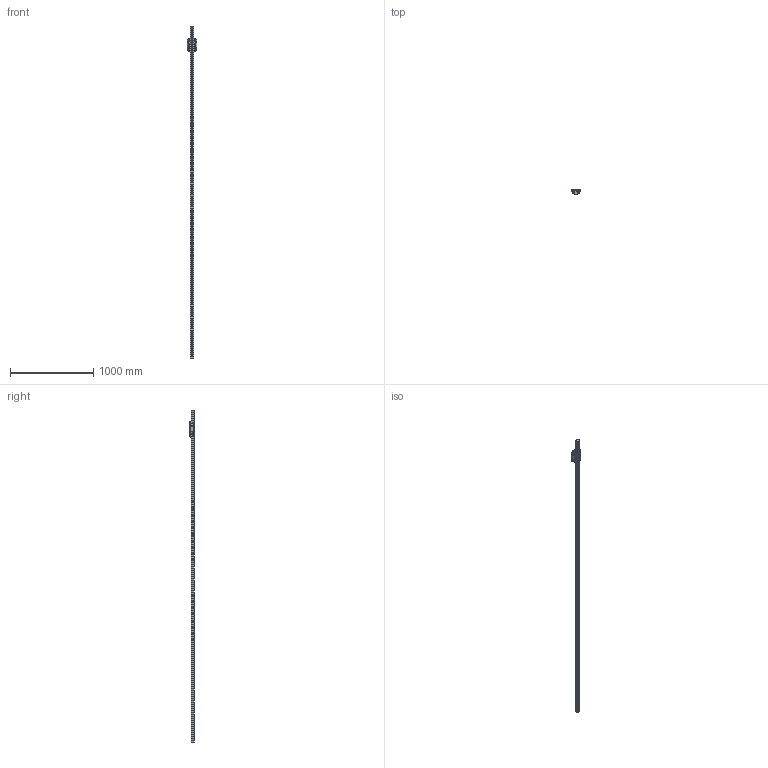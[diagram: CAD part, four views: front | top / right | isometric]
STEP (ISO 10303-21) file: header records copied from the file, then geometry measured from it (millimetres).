
FILE_DESCRIPTION((''),'2;1');
FILE_NAME('BRS45-LA_CUSTOMER_ASM_ASM','2020-11-24T11:48:05',('TWVS2025'),(''),'CREO PARAMETRIC BY PTC INC, 2018420','CREO PARAMETRIC BY PTC INC, 2018420','');
FILE_SCHEMA(('CONFIG_CONTROL_DESIGN'));
Products named in the file (75): BC-BRD45-LA_ASM_1_1; BC-BRD45-LA_ASM_1_2; BC-BRD45-LA_ASM_1_3; BC-BRD45-LA_ASM_1_4; BC-BRD45-LA_ASM_1_5; BC-BRD45-LA_ASM_1_6; BC-BRD45-LA_ASM_1_7; BC-BRD45-LA_ASM_1_8; BC-BRD45-LA_ASM_1_9; BC-BRD45-LA_ASM_1_10; BC-BRD45-LA_ASM_1_11; BC-BRD45-LA_ASM_1_12; BC-BRD45-LA_ASM_1_13; BC-BRD45-LA_ASM_1_14; BC-BRD45-LA_ASM_1_15; BC-BRD45-LA_ASM_1_16; BC-BRD45-LA_ASM_1_17; BC-BRD45-LA_ASM_1_18; BC-BRD45-LA_ASM_1_19; BC-BRD45-LA_ASM_1_20; BC-BRD45-LA_ASM_1_21; BC-BRD45-LA_ASM_1_22; BC-BRD45-LA_ASM_1_23; BC-BRD45-LA_ASM_1_24; BC-BRD45-LA_ASM_1_25; BC-BRD45-LA_ASM_1_26; BC-BRD45-LA_ASM_1_27; BC-BRD45-LA_ASM_1_28; BC-BRD45-LA_ASM_1_29; BC-BRD45-LA_ASM_1_30; BC-BRD45-LA_ASM_1_31; BC-BRD45-LA_ASM_1_32; BC-BRD45-LA_ASM_1_33; BC-BRD45-LA_ASM_1_34; BC-BRD45-LA_ASM_1_35; BC-BRD45-LA_ASM_1_36; BC-BRD45-LA_ASM_1_37; BC-BRD45-LA_ASM_1_38; BC-BRD45-LA_ASM_1_39; BC-BRD45-LA_ASM_1_40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
Assembly tree (74 placements, depth 4):
  BRS45-LA_CUSTOMER_ASM_ASM
    BRS45-LA_CUSTOMER_ASM_1_ASM
      BC-BRD45-LA_ASM_1_ASM
        BC-BRD45-LA_ASM_1_1
        BC-BRD45-LA_ASM_1_2
        BC-BRD45-LA_ASM_1_3
        BC-BRD45-LA_ASM_1_4
        BC-BRD45-LA_ASM_1_5
        BC-BRD45-LA_ASM_1_6
        BC-BRD45-LA_ASM_1_7
        BC-BRD45-LA_ASM_1_8
        BC-BRD45-LA_ASM_1_9
        BC-BRD45-LA_ASM_1_10
        BC-BRD45-LA_ASM_1_11
        BC-BRD45-LA_ASM_1_12
        BC-BRD45-LA_ASM_1_13
        BC-BRD45-LA_ASM_1_14
        BC-BRD45-LA_ASM_1_15
        BC-BRD45-LA_ASM_1_16
        BC-BRD45-LA_ASM_1_17
        BC-BRD45-LA_ASM_1_18
        BC-BRD45-LA_ASM_1_19
        BC-BRD45-LA_ASM_1_20
        BC-BRD45-LA_ASM_1_21
        BC-BRD45-LA_ASM_1_22
        BC-BRD45-LA_ASM_1_23
        BC-BRD45-LA_ASM_1_24
        BC-BRD45-LA_ASM_1_25
        BC-BRD45-LA_ASM_1_26
        BC-BRD45-LA_ASM_1_27
        BC-BRD45-LA_ASM_1_28
        BC-BRD45-LA_ASM_1_29
        BC-BRD45-LA_ASM_1_30
        BC-BRD45-LA_ASM_1_31
        BC-BRD45-LA_ASM_1_32
        BC-BRD45-LA_ASM_1_33
        BC-BRD45-LA_ASM_1_34
        BC-BRD45-LA_ASM_1_35
        BC-BRD45-LA_ASM_1_36
        BC-BRD45-LA_ASM_1_37
        BC-BRD45-LA_ASM_1_38
        BC-BRD45-LA_ASM_1_39
        BC-BRD45-LA_ASM_1_40
        BC-BRD45-LA_ASM_1_41
        BC-BRD45-LA_ASM_1_42
        BC-BRD45-LA_ASM_1_43
        BC-BRD45-LA_ASM_1_44
        BC-BRD45-LA_ASM_1_45
        BC-BRD45-LA_ASM_1_46
        BC-BRD45-LA_ASM_1_47
        BC-BRD45-LA_ASM_1_48
        BC-BRD45-LA_ASM_1_49
        BC-BRD45-LA_ASM_1_50
        BC-BRD45-LA_ASM_1_51
        BC-BRD45-LA_ASM_1_52
        BC-BRD45-LA_ASM_1_53
        BC-BRD45-LA_ASM_1_54
        BC-BRD45-LA_ASM_1_55
        BC-BRD45-LA_ASM_1_56
        BC-BRD45-LA_ASM_1_57
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Bounding box: 119.95 x 60 x 4000 mm (x, y, z)
Volume: 5968336.5 mm3; surface area: 895695.5 mm2
Topology: 73 solids, 74 shells, 1670 faces, 4894 edges, 3136 vertices
Faces by surface type: plane 705, cylinder 497, sphere 226, bspline 112, cone 90, torus 36, extrusion 4
Entity records: 81632 total; most frequent: CARTESIAN_POINT 37303, ORIENTED_EDGE 9156, DIRECTION 8983, EDGE_CURVE 4578, AXIS2_PLACEMENT_3D 3395, VERTEX_POINT 3136, VECTOR 2193, LINE 2189
